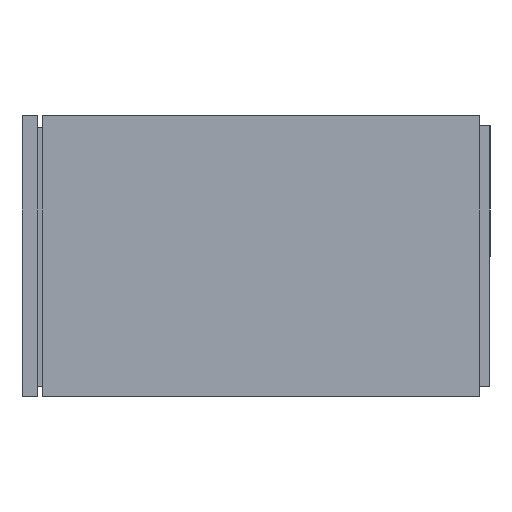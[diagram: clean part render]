
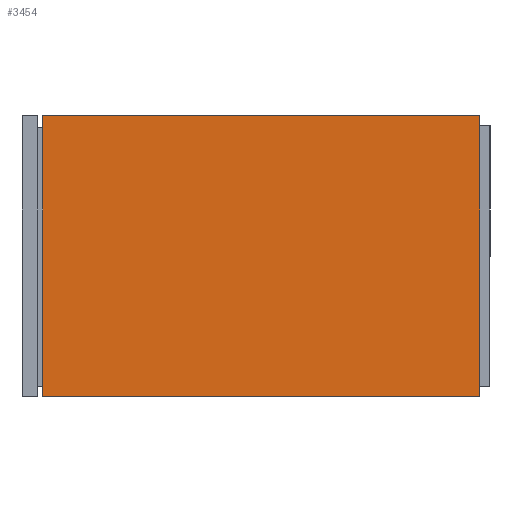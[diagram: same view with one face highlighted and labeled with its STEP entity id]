
A CAD part, left-side view. The second image highlights one B-rep face of the part: STEP entity #3454.
In plain terms, the highlighted planar face has unit normal (-1, 0, 0).
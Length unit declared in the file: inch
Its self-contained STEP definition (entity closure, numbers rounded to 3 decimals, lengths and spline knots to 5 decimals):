
#610=FACE_OUTER_BOUND('',#794,.T.);
#794=EDGE_LOOP('',(#2517,#2518,#2519,#2520));
#990=LINE('',#4904,#1388);
#995=LINE('',#4913,#1393);
#999=LINE('',#4921,#1397);
#1000=LINE('',#4923,#1398);
#1388=VECTOR('',#4060,0.3937);
#1393=VECTOR('',#4067,0.3937);
#1397=VECTOR('',#4075,0.3937);
#1398=VECTOR('',#4078,0.3937);
#1776=VERTEX_POINT('',#4901);
#1777=VERTEX_POINT('',#4903);
#1780=VERTEX_POINT('',#4911);
#1782=VERTEX_POINT('',#4919);
#2058=EDGE_CURVE('',#1777,#1776,#990,.T.);
#2063=EDGE_CURVE('',#1776,#1780,#995,.T.);
#2067=EDGE_CURVE('',#1782,#1780,#999,.T.);
#2068=EDGE_CURVE('',#1777,#1782,#1000,.T.);
#2517=ORIENTED_EDGE('',*,*,#2063,.T.);
#2518=ORIENTED_EDGE('',*,*,#2067,.F.);
#2519=ORIENTED_EDGE('',*,*,#2068,.F.);
#2520=ORIENTED_EDGE('',*,*,#2058,.T.);
#3276=PLANE('',#3796);
#3454=ADVANCED_FACE('',(#610),#3276,.T.);
#3796=AXIS2_PLACEMENT_3D('',#4924,#4079,#4080);
#4060=DIRECTION('',(0.,-1.,0.));
#4067=DIRECTION('',(0.,0.,1.));
#4075=DIRECTION('',(0.,-1.,0.));
#4078=DIRECTION('',(0.,0.,1.));
#4079=DIRECTION('center_axis',(-1.,0.,0.));
#4080=DIRECTION('ref_axis',(0.,0.,1.));
#4901=CARTESIAN_POINT('',(0.,-33.0625,-21.));
#4903=CARTESIAN_POINT('',(0.,-0.375,-21.));
#4904=CARTESIAN_POINT('',(0.,-0.375,-21.));
#4911=CARTESIAN_POINT('',(0.,-33.0625,0.));
#4913=CARTESIAN_POINT('',(0.,-33.0625,-21.));
#4919=CARTESIAN_POINT('',(0.,-0.375,0.));
#4921=CARTESIAN_POINT('',(0.,-0.375,0.));
#4923=CARTESIAN_POINT('',(0.,-0.375,-0.75));
#4924=CARTESIAN_POINT('Origin',(0.,-16.71875,-10.875));
